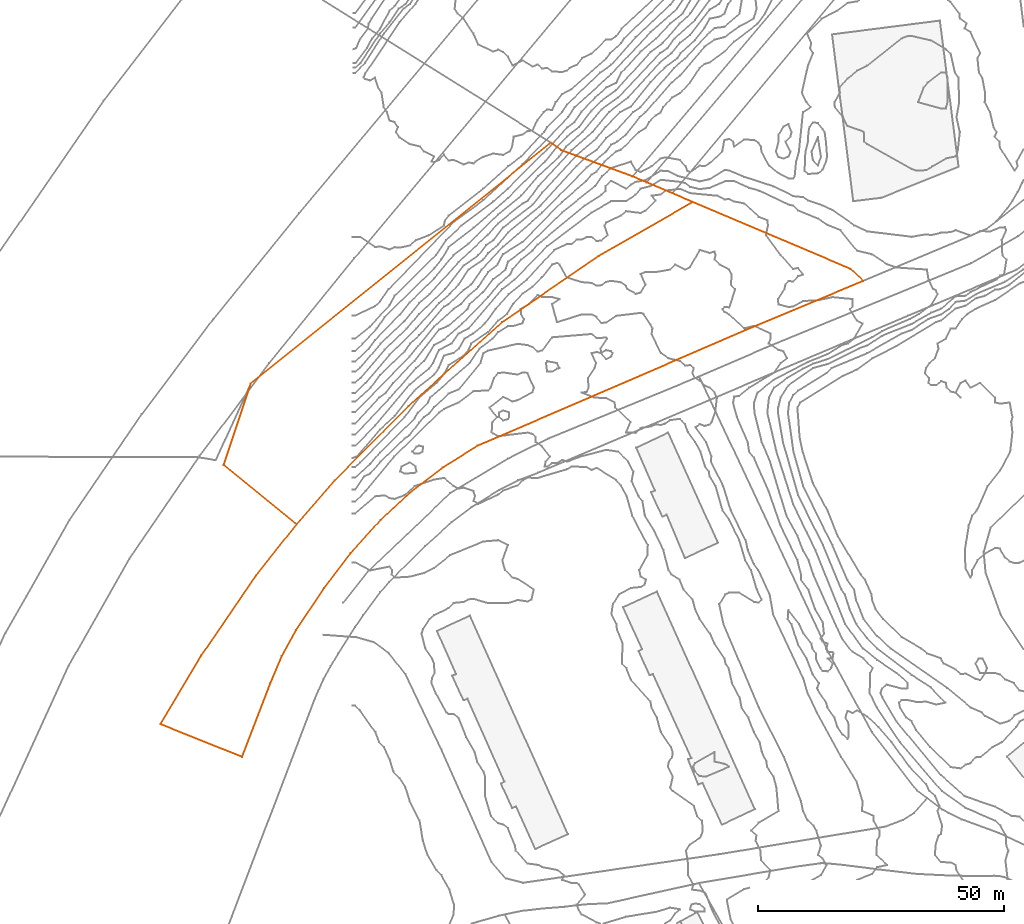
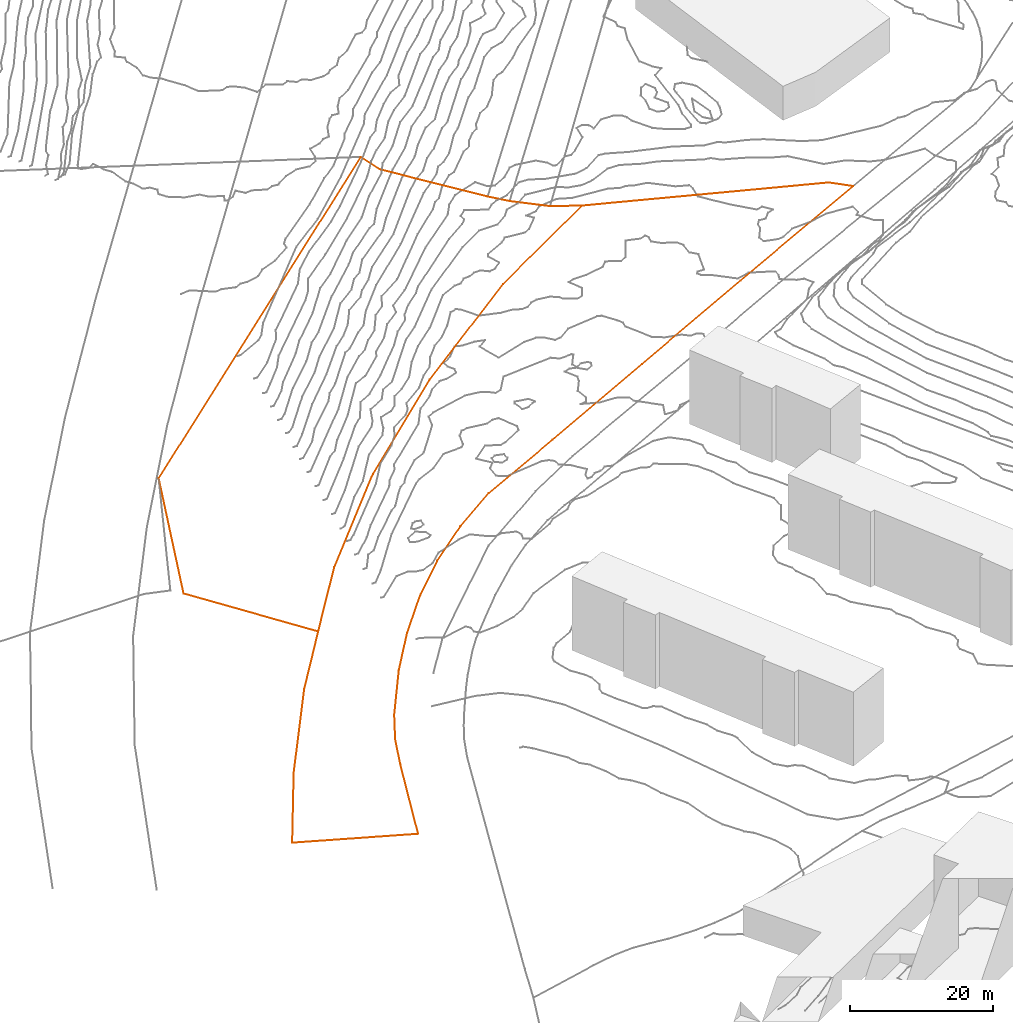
# Not in any storey, part 134 of 419: 2 proxies.
"""IFC2X3 model written with IfcOpenShell, lengths in metres."""

from ifc_helpers import new_model, entity, si_unit, frame, origin_with_axes, place, context, subcontext, project, element, save


model = new_model("IFC2X3")

# Units and contexts
model_context = context("Model", 3, precision=1e-05, world=origin_with_axes())
body_context = subcontext(model_context, "Body", "Model", "MODEL_VIEW")
ifc_project = project(units=[si_unit("AREAUNIT", "SQUARE_METRE"), si_unit("LENGTHUNIT", "METRE")], contexts=[model_context])

# Proxies
proxy_1_placement = place(None, frame((-26.6679795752, 635.2076909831, 14.9455001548), z_axis=(0.0, 0.0, 1.0), x_axis=(1.0, 0.0, 0.0)))
element("IfcBuildingElementProxy", 1, at=proxy_1_placement, Name="Cadastre 330", ObjectType="NOTDEFINED", context=body_context, shape_type="GeometricCurveSet", body=[
    entity("IfcGeometricCurveSet", [entity("IfcPolyline", [entity("IfcCartesianPoint", [14.79, -12.0900000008, -4.3439004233]), entity("IfcCartesianPoint", [0.0, 0.0, 0.0]), entity("IfcCartesianPoint", [5.53, 16.5699999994, 7.7526995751]), entity("IfcCartesianPoint", [66.48, 65.4899999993, 11.7448392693]), entity("IfcCartesianPoint", [68.62, 63.96, 9.8130435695]), entity("IfcCartesianPoint", [83.0800000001, 58.6399999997, 3.3165599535]), entity("IfcCartesianPoint", [85.9400000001, 57.4299999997, 2.2634602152]), entity("IfcCartesianPoint", [91.2000000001, 55.1999999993, 0.9077182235]), entity("IfcCartesianPoint", [95.3300000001, 53.4299999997, 0.6369315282]), entity("IfcCartesianPoint", [76.22, 42.4699999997, 0.5605314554]), entity("IfcCartesianPoint", [56.5600000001, 28.9899999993, -0.772500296]), entity("IfcCartesianPoint", [37.5700000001, 12.0099999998, 0.0564360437]), entity("IfcCartesianPoint", [22.54, -3.21, -1.3935001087]), entity("IfcCartesianPoint", [14.79, -12.0900000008, -4.3439004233])])]),
])
proxy_2_placement = place(None, frame((-39.5079795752, 582.5276909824, 8.7403996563), z_axis=(0.0, 0.0, 1.0), x_axis=(1.0, 0.0, 0.0)))
element("IfcBuildingElementProxy", 2, at=proxy_2_placement, Name="Cadastre 331", ObjectType="NOTDEFINED", context=body_context, shape_type="GeometricCurveSet", body=[
    entity("IfcGeometricCurveSet", [entity("IfcPolyline", [entity("IfcCartesianPoint", [0.0, 0.0, 0.0]), entity("IfcCartesianPoint", [8.27, 13.9000000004, 0.6977999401]), entity("IfcCartesianPoint", [19.4, 30.2300000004, 1.1468002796]), entity("IfcCartesianPoint", [27.63, 40.5899999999, 1.8612000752]), entity("IfcCartesianPoint", [35.38, 49.4700000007, 4.8116003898]), entity("IfcCartesianPoint", [50.41, 64.6900000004, 6.2615365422]), entity("IfcCartesianPoint", [69.4, 81.6699999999, 5.4326002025]), entity("IfcCartesianPoint", [89.0599999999, 95.1500000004, 6.7656319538]), entity("IfcCartesianPoint", [108.17, 106.1100000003, 6.8420320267]), entity("IfcCartesianPoint", [140.28, 92.5, 7.8064640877]), entity("IfcCartesianPoint", [142.8199999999, 90.0800000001, 7.7681841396]), entity("IfcCartesianPoint", [118.8, 80.0499999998, 6.1261005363]), entity("IfcCartesianPoint", [97.54, 70.8500000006, 4.8499841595]), entity("IfcCartesianPoint", [78.3099999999, 62.5499999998, 3.6617842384]), entity("IfcCartesianPoint", [64.46, 56.6000000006, 2.9182723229]), entity("IfcCartesianPoint", [57.35, 52.1500000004, 2.4868002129]), entity("IfcCartesianPoint", [57.3, 52.1200000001, 2.4846002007]), entity("IfcCartesianPoint", [50.63, 47.0099999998, 2.0286803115]), entity("IfcCartesianPoint", [50.59, 46.9700000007, 2.0244002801]), entity("IfcCartesianPoint", [44.74, 41.5300000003, 1.6604561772]), entity("IfcCartesianPoint", [38.65, 34.7400000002, 1.3044005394]), entity("IfcCartesianPoint", [33.24, 27.6900000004, 1.0424003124]), entity("IfcCartesianPoint", [27.55, 19.1000000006, 0.6995999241]), entity("IfcCartesianPoint", [24.66, 13.8300000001, 0.7003999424]), entity("IfcCartesianPoint", [22.3, 8.2800000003, 0.5542005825]), entity("IfcCartesianPoint", [16.5599999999, -6.6399999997, -0.2505998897]), entity("IfcCartesianPoint", [0.0, 0.0, 0.0])])]),
])

save(model, "model.ifc")
